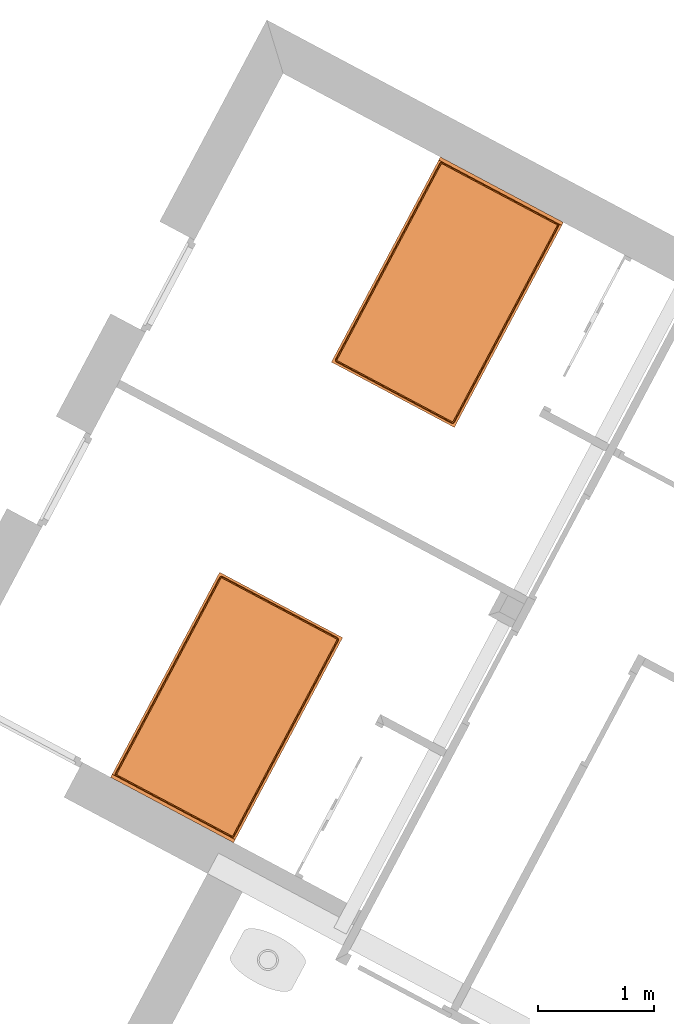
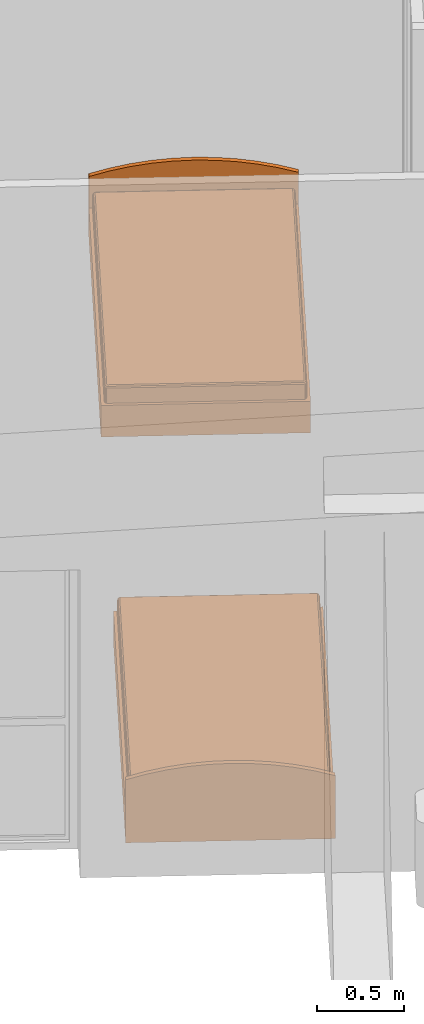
# One storey, part 27 of 27: 2 proxies.
"""IFC2X3 building model written with IfcOpenShell, lengths in metres."""

from ifc_helpers import new_model, entity, si_unit, converted_unit, derived_unit, money_unit, direction, frame, origin_with_axes, place, context, subcontext, project, spatial, faceted_brep, type_object, element, save


model = new_model("IFC2X3")

# Units and contexts
model_context = context("Model", 3, precision=1e-05, world=origin_with_axes(), true_north=direction((0.0, 1.0)))
body_context = subcontext(model_context, "Body", "Model", "MODEL_VIEW")
ifc_project = project(units=[si_unit("LENGTHUNIT", "METRE"), si_unit("AREAUNIT", "SQUARE_METRE"), si_unit("VOLUMEUNIT", "CUBIC_METRE"), converted_unit("PLANEANGLEUNIT", "DEGREE", entity("IfcPlaneAngleMeasure", 0.0174532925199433), si_unit("PLANEANGLEUNIT", "RADIAN"), dimensions=[0, 0, 0, 0, 0, 0, 0]), money_unit("CHF"), converted_unit("TIMEUNIT", "Year", entity("IfcTimeMeasure", 31557600.0), si_unit("TIMEUNIT", "SECOND"), dimensions=[0, 0, 1, 0, 0, 0, 0]), si_unit("MASSUNIT", "GRAM", prefix="KILO"), si_unit("THERMODYNAMICTEMPERATUREUNIT", "DEGREE_CELSIUS"), si_unit("LUMINOUSINTENSITYUNIT", "LUMEN"), si_unit("ENERGYUNIT", "JOULE", prefix="MEGA"), derived_unit("THERMALCONDUCTANCEUNIT", [(si_unit("POWERUNIT", "WATT"), 1), (si_unit("LENGTHUNIT", "METRE"), -1), (si_unit("THERMODYNAMICTEMPERATUREUNIT", "KELVIN"), -1)]), derived_unit("SPECIFICHEATCAPACITYUNIT", [(si_unit("ENERGYUNIT", "JOULE"), 1), (si_unit("MASSUNIT", "GRAM", prefix="KILO"), -1), (si_unit("THERMODYNAMICTEMPERATUREUNIT", "KELVIN"), -1)]), derived_unit("MASSDENSITYUNIT", [(si_unit("MASSUNIT", "GRAM", prefix="KILO"), 1), (si_unit("VOLUMEUNIT", "CUBIC_METRE"), -1)])], contexts=[model_context])

# Site, building, storey
site_placement = place(None, frame((0.0, 0.0, 0.0), z_axis=(0.0, 0.0, 1.0), x_axis=(-0.4694715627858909, -0.8829475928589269, 0.0)))
site = spatial("IfcSite", under=ifc_project, at=site_placement, Name="Site", CompositionType="ELEMENT")
building_placement = place(site_placement, origin_with_axes())
building = spatial("IfcBuilding", under=site, at=building_placement, Name="Bâtiment", CompositionType="ELEMENT")
storey_placement = place(building_placement, origin_with_axes())
storey = spatial("IfcBuildingStorey", under=building, at=storey_placement, Name="RDC", CompositionType="ELEMENT", Elevation=0.0)

# Proxies
building_element_proxy_type = type_object("IfcBuildingElementProxyType", Name="Lit une personne 01 12", PredefinedType="NOTDEFINED")
proxy_1_placement = place(storey_placement, frame((131.5495710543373, -837.1209508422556, 0.0), z_axis=(0.0, 0.0, 1.0), x_axis=(0.0, -1.0, 0.0)))
element("IfcBuildingElementProxy", 1, at=proxy_1_placement, inside=storey, type_object=building_element_proxy_type, Name="Obj.-633", context=body_context, shape_type="Brep", body=[
    faceted_brep([(0.0, 2.0, 0.0), (1.2, 2.0, 0.0), (1.2, 1.97, 0.0), (0.0, 1.97, 0.0), (0.0, 2.0, 0.4400000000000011), (0.116828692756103, 2.0, 0.4757898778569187), (0.2357651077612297, 2.0, 0.5037896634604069), (0.3562904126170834, 2.0, 0.5238772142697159), (0.4778788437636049, 2.0, 0.5359649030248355), (0.6000000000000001, 2.0, 0.5400000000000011), (0.7221211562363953, 2.0, 0.535964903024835), (0.8437095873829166, 2.0, 0.523877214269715), (0.9642348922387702, 2.0, 0.503789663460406), (1.083171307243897, 2.0, 0.4757898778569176), (1.2, 2.0, 0.4400000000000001), (1.2, 2.0, 0.4399000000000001), (1.2, 1.97, 0.4399000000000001), (1.2, 1.97, 0.4400000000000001), (1.083171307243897, 1.97, 0.4757898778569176), (0.9642348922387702, 1.97, 0.503789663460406), (0.8437095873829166, 1.97, 0.523877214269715), (0.7221211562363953, 1.97, 0.535964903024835), (0.6000000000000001, 1.97, 0.5400000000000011), (0.4778788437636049, 1.97, 0.5359649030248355), (0.3562904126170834, 1.97, 0.5238772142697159), (0.2357651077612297, 1.97, 0.5037896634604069), (0.116828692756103, 1.97, 0.4757898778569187), (0.0, 1.97, 0.4400000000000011)], [[[0, 1, 2, 3]], [[0, 4, 5, 6, 7, 8, 9, 10, 11, 12, 13, 14, 15, 1]], [[1, 15, 16, 2]], [[3, 2, 16, 17, 18, 19, 20, 21, 22, 23, 24, 25, 26, 27]], [[4, 0, 3, 27]], [[5, 4, 27, 26]], [[6, 5, 26, 25]], [[7, 6, 25, 24]], [[8, 7, 24, 23]], [[9, 8, 23, 22]], [[10, 9, 22, 21]], [[11, 10, 21, 20]], [[12, 11, 20, 19]], [[13, 12, 19, 18]], [[14, 13, 18, 17]], [[15, 14, 17, 16]]]),
    faceted_brep([(1.2, 0.0, 0.0), (0.0, 0.0, 0.0), (0.0, 1.97, 0.0), (1.2, 1.97, 0.0), (1.2, 0.0, 0.22), (0.0, 0.0, 0.22), (0.0, 1.97, 0.22), (1.2, 1.97, 0.22)], [[[0, 1, 2, 3]], [[1, 0, 4, 5]], [[2, 1, 5, 6]], [[3, 2, 6, 7]], [[0, 3, 7, 4]], [[5, 4, 7, 6]]]),
    faceted_brep([(0.02, 0.04195, 0.31), (0.02, 1.95, 0.31), (0.02152240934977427, 1.957653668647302, 0.31), (0.02585786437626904, 1.964142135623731, 0.31), (0.03234633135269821, 1.968477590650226, 0.31), (0.04, 1.97, 0.31), (0.04116, 1.97, 0.31), (1.16, 1.97, 0.31), (1.167653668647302, 1.968477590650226, 0.31), (1.174142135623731, 1.964142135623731, 0.31), (1.178477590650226, 1.957653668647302, 0.31), (1.18, 1.95, 0.31), (1.18, 1.94805, 0.31), (1.18, 0.04, 0.31), (1.178477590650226, 0.03234633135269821, 0.31), (1.174142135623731, 0.02585786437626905, 0.31), (1.167653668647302, 0.02152240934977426, 0.31), (1.16, 0.02, 0.31), (1.15884, 0.02, 0.31), (0.04000000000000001, 0.02, 0.31), (0.03234633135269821, 0.02152240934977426, 0.31), (0.02585786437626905, 0.02585786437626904, 0.31), (0.02152240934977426, 0.03234633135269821, 0.31), (0.02, 0.04, 0.31), (0.01999999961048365, 0.04194999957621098, 0.32), (0.01999999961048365, 1.950000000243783, 0.32), (0.0215224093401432, 1.957653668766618, 0.32), (0.02585786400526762, 1.964142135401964, 0.32), (0.03234633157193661, 1.968477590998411, 0.32), (0.04000000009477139, 1.969999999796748, 0.32), (0.04115999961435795, 1.969999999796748, 0.32), (1.16000000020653, 1.969999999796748, 0.32), (1.167653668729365, 1.968477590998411, 0.32), (1.174142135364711, 1.964142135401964, 0.32), (1.178477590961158, 1.957653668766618, 0.32), (1.179999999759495, 1.950000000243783, 0.32), (1.179999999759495, 1.948049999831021, 0.32), (1.179999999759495, 0.04000000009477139, 0.32), (1.178477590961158, 0.03234633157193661, 0.32), (1.174142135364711, 0.02585786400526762, 0.32), (1.167653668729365, 0.0215224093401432, 0.32), (1.16000000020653, 0.01999999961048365, 0.32), (1.158839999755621, 0.01999999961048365, 0.32), (0.04000000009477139, 0.01999999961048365, 0.32), (0.03234633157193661, 0.0215224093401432, 0.32), (0.02585786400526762, 0.02585786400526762, 0.32), (0.0215224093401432, 0.03234633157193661, 0.32), (0.01999999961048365, 0.04000000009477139, 0.32), (0.02068148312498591, 0.04194999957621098, 0.3251763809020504), (0.02068148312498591, 1.9499328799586, 0.3251763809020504), (0.02216435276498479, 1.957387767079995, 0.3251763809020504), (0.02634918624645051, 1.963650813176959, 0.3251763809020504), (0.03261223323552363, 1.96783564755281, 0.3251763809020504), (0.04006712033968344, 1.969318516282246, 0.3251763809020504), (0.04115999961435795, 1.969318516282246, 0.3251763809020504), (1.159932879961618, 1.969318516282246, 0.3251763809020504), (1.167387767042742, 1.967835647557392, 0.3251763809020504), (1.173650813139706, 1.963650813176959, 0.3251763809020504), (1.177835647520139, 1.957387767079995, 0.3251763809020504), (1.179318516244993, 1.949932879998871, 0.3251763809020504), (1.179318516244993, 1.948049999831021, 0.3251763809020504), (1.179318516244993, 0.04006712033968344, 0.3251763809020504), (1.177835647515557, 0.03261223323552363, 0.3251763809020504), (1.173650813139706, 0.02634918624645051, 0.3251763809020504), (1.167387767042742, 0.02216435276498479, 0.3251763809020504), (1.159932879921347, 0.02068148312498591, 0.3251763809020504), (1.158839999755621, 0.02068148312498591, 0.3251763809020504), (0.0400671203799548, 0.02068148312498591, 0.3251763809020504), (0.03261223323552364, 0.0221643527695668, 0.3251763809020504), (0.02634918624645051, 0.02634918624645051, 0.3251763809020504), (0.0221643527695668, 0.03261223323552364, 0.3251763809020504), (0.02068148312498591, 0.0400671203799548, 0.3251763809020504), (0.02585786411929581, 0.04194999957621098, 0.334142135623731), (0.02585786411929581, 1.949423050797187, 0.334142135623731), (0.0270403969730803, 1.955368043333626, 0.334142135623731), (0.03008114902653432, 1.959918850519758, 0.334142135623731), (0.03463195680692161, 1.962959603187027, 0.334142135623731), (0.0405769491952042, 1.964142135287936, 0.334142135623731), (0.04115999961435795, 1.964142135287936, 0.334142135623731), (1.159423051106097, 1.964142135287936, 0.334142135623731), (1.165368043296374, 1.962959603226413, 0.334142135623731), (1.169918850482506, 1.959918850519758, 0.334142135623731), (1.17295960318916, 1.955368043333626, 0.334142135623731), (1.174142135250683, 1.94942305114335, 0.334142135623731), (1.174142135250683, 1.948049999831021, 0.334142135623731), (1.174142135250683, 0.0405769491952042, 0.334142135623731), (1.172959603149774, 0.03463195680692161, 0.334142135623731), (1.169918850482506, 0.03008114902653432, 0.334142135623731), (1.165368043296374, 0.0270403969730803, 0.334142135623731), (1.159423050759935, 0.02585786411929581, 0.334142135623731), (1.158839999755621, 0.02585786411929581, 0.334142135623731), (0.04057694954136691, 0.02585786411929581, 0.334142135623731), (0.03463195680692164, 0.02704039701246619, 0.334142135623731), (0.03008114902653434, 0.03008114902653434, 0.334142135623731), (0.02704039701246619, 0.03463195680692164, 0.334142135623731), (0.02585786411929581, 0.04057694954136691, 0.334142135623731), (0.03482361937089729, 0.04194999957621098, 0.3393185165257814), (0.03482361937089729, 1.948540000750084, 0.3393185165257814), (0.03548595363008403, 1.951869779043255, 0.3393185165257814), (0.03654509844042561, 1.953454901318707, 0.3393185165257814), (0.03813022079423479, 1.954514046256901, 0.3393185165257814), (0.04145999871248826, 1.955176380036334, 0.3393185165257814), (0.04115999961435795, 1.958222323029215, 0.3375599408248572), (1.158540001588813, 1.955176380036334, 0.3393185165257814), (1.161869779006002, 1.954514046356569, 0.3393185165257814), (1.163454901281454, 1.953454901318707, 0.3393185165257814), (1.164514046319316, 1.951869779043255, 0.3393185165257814), (1.165176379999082, 1.948540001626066, 0.3393185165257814), (1.165176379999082, 1.948049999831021, 0.3393185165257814), (1.165176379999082, 0.04145999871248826, 0.3393185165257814), (1.164514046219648, 0.03813022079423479, 0.3393185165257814), (1.163454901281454, 0.03654509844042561, 0.3393185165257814), (1.161869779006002, 0.03548595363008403, 0.3393185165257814), (1.158540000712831, 0.03482361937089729, 0.3393185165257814), (1.158839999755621, 0.03177767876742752, 0.3375599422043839), (0.04145999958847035, 0.03482361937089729, 0.3393185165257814), (0.03813022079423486, 0.03548595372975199, 0.3393185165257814), (0.03654509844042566, 0.03654509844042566, 0.3393185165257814), (0.03548595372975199, 0.03813022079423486, 0.3393185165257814), (0.03482361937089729, 0.04145999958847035, 0.3393185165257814), (0.03979867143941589, 0.04194999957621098, 0.3399734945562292), (0.03999999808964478, 0.04196982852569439, 0.3399999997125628), (0.03999999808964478, 1.94803017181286, 0.3399999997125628), (0.04032681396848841, 1.949673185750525, 0.3399999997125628), (0.03999999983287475, 1.950000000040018, 0.339949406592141), (0.04196982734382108, 1.950000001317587, 0.3399999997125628), (1.15803017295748, 1.950000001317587, 0.3399999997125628), (1.159673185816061, 1.949673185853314, 0.3399999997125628), (1.159999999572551, 1.949999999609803, 0.3399494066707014), (1.160000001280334, 1.948030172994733, 0.3399999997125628), (1.160201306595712, 1.948049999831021, 0.3399734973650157), (1.160000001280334, 0.04196982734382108, 0.3399999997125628), (1.159673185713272, 0.04032681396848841, 0.3399999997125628), (1.15999999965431, 0.04000000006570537, 0.3399494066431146), (1.158030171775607, 0.03999999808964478, 0.3399999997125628), (0.04196982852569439, 0.03999999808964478, 0.3399999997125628), (0.04032681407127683, 0.04032681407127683, 0.3399999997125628), (0.03999999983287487, 0.03999999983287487, 0.339949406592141)], [[[0, 1, 2, 3, 4, 5, 6, 7, 8, 9, 10, 11, 12, 13, 14, 15, 16, 17, 18, 19, 20, 21, 22, 23]], [[1, 0, 24, 25]], [[2, 1, 25, 26]], [[3, 2, 26, 27]], [[4, 3, 27, 28]], [[5, 4, 28, 29]], [[6, 5, 29, 30]], [[7, 6, 30, 31]], [[8, 7, 31, 32]], [[9, 8, 32, 33]], [[10, 9, 33, 34]], [[11, 10, 34, 35]], [[12, 11, 35, 36]], [[13, 12, 36, 37]], [[14, 13, 37, 38]], [[15, 14, 38, 39]], [[16, 15, 39, 40]], [[17, 16, 40, 41]], [[18, 17, 41, 42]], [[19, 18, 42, 43]], [[20, 19, 43, 44]], [[21, 20, 44, 45]], [[22, 21, 45, 46]], [[23, 22, 46, 47]], [[0, 23, 47, 24]], [[25, 24, 48, 49]], [[26, 25, 49, 50]], [[27, 26, 50, 51]], [[28, 27, 51, 52]], [[29, 28, 52, 53]], [[30, 29, 53, 54]], [[31, 30, 54, 55]], [[32, 31, 55, 56]], [[33, 32, 56, 57]], [[34, 33, 57, 58]], [[35, 34, 58, 59]], [[36, 35, 59, 60]], [[37, 36, 60, 61]], [[38, 37, 61, 62]], [[39, 38, 62, 63]], [[40, 39, 63, 64]], [[41, 40, 64, 65]], [[42, 41, 65, 66]], [[43, 42, 66, 67]], [[44, 43, 67, 68]], [[45, 44, 68, 69]], [[46, 45, 69, 70]], [[47, 46, 70, 71]], [[24, 47, 71, 48]], [[49, 48, 72, 73]], [[50, 49, 73, 74]], [[51, 50, 74, 75]], [[52, 51, 75, 76]], [[53, 52, 76, 77]], [[54, 53, 77, 78]], [[55, 54, 78, 79]], [[56, 55, 79, 80]], [[57, 56, 80, 81]], [[58, 57, 81, 82]], [[59, 58, 82, 83]], [[60, 59, 83, 84]], [[61, 60, 84, 85]], [[62, 61, 85, 86]], [[63, 62, 86, 87]], [[64, 63, 87, 88]], [[65, 64, 88, 89]], [[66, 65, 89, 90]], [[67, 66, 90, 91]], [[68, 67, 91, 92]], [[69, 68, 92, 93]], [[70, 69, 93, 94]], [[71, 70, 94, 95]], [[48, 71, 95, 72]], [[73, 72, 96, 97]], [[74, 73, 97, 98]], [[75, 74, 98, 99]], [[76, 75, 99, 100]], [[77, 76, 100, 101, 102]], [[78, 77, 102]], [[79, 78, 102, 101, 103]], [[80, 79, 103, 104]], [[81, 80, 104, 105]], [[82, 81, 105, 106]], [[83, 82, 106, 107]], [[84, 83, 107, 108]], [[85, 84, 108, 109]], [[86, 85, 109, 110]], [[87, 86, 110, 111]], [[88, 87, 111, 112]], [[89, 88, 112, 113, 114]], [[90, 89, 114]], [[91, 90, 114, 113, 115]], [[92, 91, 115, 116]], [[93, 92, 116, 117]], [[94, 93, 117, 118]], [[95, 94, 118, 119]], [[72, 95, 119, 96]], [[97, 96, 120, 121, 122]], [[98, 97, 122, 123, 124]], [[99, 98, 124]], [[100, 99, 124]], [[101, 100, 124, 123, 125]], [[103, 101, 125, 126]], [[104, 103, 126, 127, 128]], [[105, 104, 128]], [[106, 105, 128]], [[107, 106, 128, 127, 129, 130]], [[108, 107, 130]], [[109, 108, 130, 129, 131]], [[110, 109, 131, 132, 133]], [[111, 110, 133]], [[112, 111, 133]], [[113, 112, 133, 132, 134]], [[115, 113, 134, 135]], [[116, 115, 135, 136, 137]], [[117, 116, 137]], [[118, 117, 137]], [[119, 118, 137, 136, 121, 120]], [[96, 119, 120]], [[122, 121, 136, 135, 134, 132, 131, 129, 127, 126, 125, 123]]]),
    faceted_brep([(0.02, 0.04, 0.22), (0.02, 0.04, 0.31), (0.02, 0.04195, 0.31), (0.02, 0.04195, 0.22), (0.02152240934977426, 0.03234633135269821, 0.22), (0.02152240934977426, 0.03234633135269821, 0.31), (0.02585786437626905, 0.02585786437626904, 0.31), (0.03234633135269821, 0.02152240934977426, 0.31), (0.04000000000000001, 0.02, 0.31), (1.15884, 0.02, 0.31), (1.16, 0.02, 0.31), (1.167653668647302, 0.02152240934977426, 0.31), (1.174142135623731, 0.02585786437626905, 0.31), (1.178477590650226, 0.03234633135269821, 0.31), (1.18, 0.04, 0.31), (1.18, 1.94805, 0.31), (1.18, 1.95, 0.31), (1.178477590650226, 1.957653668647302, 0.31), (1.174142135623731, 1.964142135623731, 0.31), (1.167653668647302, 1.968477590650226, 0.31), (1.16, 1.97, 0.31), (0.04116, 1.97, 0.31), (0.04, 1.97, 0.31), (0.03234633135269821, 1.968477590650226, 0.31), (0.02585786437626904, 1.964142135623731, 0.31), (0.02152240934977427, 1.957653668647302, 0.31), (0.02, 1.95, 0.31), (0.02, 1.95, 0.2199999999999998), (0.02152240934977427, 1.957653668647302, 0.2199999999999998), (0.02585786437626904, 1.964142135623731, 0.2199999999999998), (0.03234633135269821, 1.968477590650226, 0.2199999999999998), (0.04, 1.97, 0.2199999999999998), (0.04116, 1.97, 0.2199999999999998), (1.16, 1.97, 0.2199999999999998), (1.167653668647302, 1.968477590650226, 0.2199999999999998), (1.174142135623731, 1.964142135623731, 0.2199999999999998), (1.178477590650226, 1.957653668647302, 0.2199999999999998), (1.18, 1.95, 0.2199999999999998), (1.18, 1.94805, 0.2199999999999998), (1.18, 0.04, 0.22), (1.178477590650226, 0.03234633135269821, 0.22), (1.174142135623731, 0.02585786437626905, 0.22), (1.167653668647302, 0.02152240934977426, 0.22), (1.16, 0.02, 0.22), (1.15884, 0.02, 0.22), (0.04000000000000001, 0.02, 0.22), (0.03234633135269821, 0.02152240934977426, 0.22), (0.02585786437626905, 0.02585786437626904, 0.22)], [[[0, 1, 2, 3]], [[4, 5, 1, 0]], [[2, 1, 5, 6, 7, 8, 9, 10, 11, 12, 13, 14, 15, 16, 17, 18, 19, 20, 21, 22, 23, 24, 25, 26]], [[3, 2, 26, 27]], [[3, 27, 28, 29, 30, 31, 32, 33, 34, 35, 36, 37, 38, 39, 40, 41, 42, 43, 44, 45, 46, 47, 4, 0]], [[47, 6, 5, 4]], [[46, 7, 6, 47]], [[45, 8, 7, 46]], [[44, 9, 8, 45]], [[43, 10, 9, 44]], [[42, 11, 10, 43]], [[41, 12, 11, 42]], [[40, 13, 12, 41]], [[39, 14, 13, 40]], [[38, 15, 14, 39]], [[37, 16, 15, 38]], [[36, 17, 16, 37]], [[35, 18, 17, 36]], [[34, 19, 18, 35]], [[33, 20, 19, 34]], [[32, 21, 20, 33]], [[31, 22, 21, 32]], [[30, 23, 22, 31]], [[29, 24, 23, 30]], [[28, 25, 24, 29]], [[27, 26, 25, 28]]]),
])
proxy_2_placement = place(storey_placement, frame((129.4995710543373, -837.1209508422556, 0.0), z_axis=(0.0, 0.0, 1.0), x_axis=(0.0, 1.0, 0.0)))
element("IfcBuildingElementProxy", 2, at=proxy_2_placement, inside=storey, type_object=building_element_proxy_type, Name="Obj.-633", context=body_context, shape_type="Brep", body=[
    faceted_brep([(0.0, 2.0, 0.0), (0.0, 1.97, 0.0), (-1.2, 1.97, 0.0), (-1.2, 2.0, 0.0), (0.0, 2.0, 0.4400000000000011), (0.0, 1.97, 0.4400000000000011), (-0.116828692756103, 1.97, 0.4757898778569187), (-0.2357651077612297, 1.97, 0.5037896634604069), (-0.3562904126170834, 1.97, 0.5238772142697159), (-0.4778788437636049, 1.97, 0.5359649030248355), (-0.6000000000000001, 1.97, 0.5400000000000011), (-0.7221211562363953, 1.97, 0.535964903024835), (-0.8437095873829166, 1.97, 0.523877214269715), (-0.9642348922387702, 1.97, 0.503789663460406), (-1.083171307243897, 1.97, 0.4757898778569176), (-1.2, 1.97, 0.4400000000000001), (-1.2, 1.97, 0.4399000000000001), (-1.2, 2.0, 0.4399000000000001), (-1.2, 2.0, 0.4400000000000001), (-1.083171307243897, 2.0, 0.4757898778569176), (-0.9642348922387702, 2.0, 0.503789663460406), (-0.8437095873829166, 2.0, 0.523877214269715), (-0.7221211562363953, 2.0, 0.535964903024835), (-0.6000000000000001, 2.0, 0.5400000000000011), (-0.4778788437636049, 2.0, 0.5359649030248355), (-0.3562904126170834, 2.0, 0.5238772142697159), (-0.2357651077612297, 2.0, 0.5037896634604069), (-0.116828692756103, 2.0, 0.4757898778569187)], [[[0, 1, 2, 3]], [[4, 5, 1, 0]], [[1, 5, 6, 7, 8, 9, 10, 11, 12, 13, 14, 15, 16, 2]], [[3, 2, 16, 17]], [[0, 3, 17, 18, 19, 20, 21, 22, 23, 24, 25, 26, 27, 4]], [[27, 6, 5, 4]], [[26, 7, 6, 27]], [[25, 8, 7, 26]], [[24, 9, 8, 25]], [[23, 10, 9, 24]], [[22, 11, 10, 23]], [[21, 12, 11, 22]], [[20, 13, 12, 21]], [[19, 14, 13, 20]], [[18, 15, 14, 19]], [[17, 16, 15, 18]]]),
    faceted_brep([(-1.2, 0.0, 0.0), (-1.2, 1.97, 0.0), (0.0, 1.97, 0.0), (0.0, 0.0, 0.0), (-1.2, 0.0, 0.22), (-1.2, 1.97, 0.22), (0.0, 1.97, 0.22), (0.0, 0.0, 0.22)], [[[0, 1, 2, 3]], [[0, 4, 5, 1]], [[1, 5, 6, 2]], [[2, 6, 7, 3]], [[3, 7, 4, 0]], [[7, 6, 5, 4]]]),
    faceted_brep([(-0.02, 0.04195, 0.31), (-0.02, 0.04, 0.31), (-0.02152240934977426, 0.03234633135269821, 0.31), (-0.02585786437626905, 0.02585786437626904, 0.31), (-0.03234633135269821, 0.02152240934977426, 0.31), (-0.04000000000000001, 0.02, 0.31), (-1.15884, 0.02, 0.31), (-1.16, 0.02, 0.31), (-1.167653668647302, 0.02152240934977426, 0.31), (-1.174142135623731, 0.02585786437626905, 0.31), (-1.178477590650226, 0.03234633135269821, 0.31), (-1.18, 0.04, 0.31), (-1.18, 1.94805, 0.31), (-1.18, 1.95, 0.31), (-1.178477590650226, 1.957653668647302, 0.31), (-1.174142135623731, 1.964142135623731, 0.31), (-1.167653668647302, 1.968477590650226, 0.31), (-1.16, 1.97, 0.31), (-0.04116, 1.97, 0.31), (-0.04, 1.97, 0.31), (-0.03234633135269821, 1.968477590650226, 0.31), (-0.02585786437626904, 1.964142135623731, 0.31), (-0.02152240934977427, 1.957653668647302, 0.31), (-0.02, 1.95, 0.31), (-0.01999999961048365, 0.04194999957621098, 0.32), (-0.01999999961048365, 0.04000000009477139, 0.32), (-0.0215224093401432, 0.03234633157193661, 0.32), (-0.02585786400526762, 0.02585786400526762, 0.32), (-0.03234633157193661, 0.0215224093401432, 0.32), (-0.04000000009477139, 0.01999999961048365, 0.32), (-1.158839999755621, 0.01999999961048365, 0.32), (-1.16000000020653, 0.01999999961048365, 0.32), (-1.167653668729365, 0.0215224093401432, 0.32), (-1.174142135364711, 0.02585786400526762, 0.32), (-1.178477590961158, 0.03234633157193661, 0.32), (-1.179999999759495, 0.04000000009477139, 0.32), (-1.179999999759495, 1.948049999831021, 0.32), (-1.179999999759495, 1.950000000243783, 0.32), (-1.178477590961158, 1.957653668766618, 0.32), (-1.174142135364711, 1.964142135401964, 0.32), (-1.167653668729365, 1.968477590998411, 0.32), (-1.16000000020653, 1.969999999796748, 0.32), (-0.04115999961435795, 1.969999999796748, 0.32), (-0.04000000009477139, 1.969999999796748, 0.32), (-0.03234633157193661, 1.968477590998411, 0.32), (-0.02585786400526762, 1.964142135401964, 0.32), (-0.0215224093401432, 1.957653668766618, 0.32), (-0.01999999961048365, 1.950000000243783, 0.32), (-0.02068148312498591, 0.04194999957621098, 0.3251763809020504), (-0.02068148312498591, 0.0400671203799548, 0.3251763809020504), (-0.0221643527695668, 0.03261223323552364, 0.3251763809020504), (-0.02634918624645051, 0.02634918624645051, 0.3251763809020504), (-0.03261223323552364, 0.0221643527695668, 0.3251763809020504), (-0.0400671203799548, 0.02068148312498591, 0.3251763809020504), (-1.158839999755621, 0.02068148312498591, 0.3251763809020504), (-1.159932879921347, 0.02068148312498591, 0.3251763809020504), (-1.167387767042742, 0.02216435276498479, 0.3251763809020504), (-1.173650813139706, 0.02634918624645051, 0.3251763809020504), (-1.177835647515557, 0.03261223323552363, 0.3251763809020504), (-1.179318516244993, 0.04006712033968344, 0.3251763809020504), (-1.179318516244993, 1.948049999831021, 0.3251763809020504), (-1.179318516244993, 1.949932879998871, 0.3251763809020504), (-1.177835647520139, 1.957387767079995, 0.3251763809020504), (-1.173650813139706, 1.963650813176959, 0.3251763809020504), (-1.167387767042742, 1.967835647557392, 0.3251763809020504), (-1.159932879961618, 1.969318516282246, 0.3251763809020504), (-0.04115999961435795, 1.969318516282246, 0.3251763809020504), (-0.04006712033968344, 1.969318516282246, 0.3251763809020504), (-0.03261223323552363, 1.96783564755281, 0.3251763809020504), (-0.02634918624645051, 1.963650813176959, 0.3251763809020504), (-0.02216435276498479, 1.957387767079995, 0.3251763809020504), (-0.02068148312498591, 1.9499328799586, 0.3251763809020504), (-0.02585786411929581, 0.04194999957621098, 0.334142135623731), (-0.02585786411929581, 0.04057694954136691, 0.334142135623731), (-0.02704039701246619, 0.03463195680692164, 0.334142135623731), (-0.03008114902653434, 0.03008114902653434, 0.334142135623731), (-0.03463195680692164, 0.02704039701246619, 0.334142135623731), (-0.04057694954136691, 0.02585786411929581, 0.334142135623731), (-1.158839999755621, 0.02585786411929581, 0.334142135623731), (-1.159423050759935, 0.02585786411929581, 0.334142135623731), (-1.165368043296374, 0.0270403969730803, 0.334142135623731), (-1.169918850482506, 0.03008114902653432, 0.334142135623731), (-1.172959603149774, 0.03463195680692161, 0.334142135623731), (-1.174142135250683, 0.0405769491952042, 0.334142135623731), (-1.174142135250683, 1.948049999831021, 0.334142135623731), (-1.174142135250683, 1.94942305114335, 0.334142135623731), (-1.17295960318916, 1.955368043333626, 0.334142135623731), (-1.169918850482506, 1.959918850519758, 0.334142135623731), (-1.165368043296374, 1.962959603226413, 0.334142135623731), (-1.159423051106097, 1.964142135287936, 0.334142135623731), (-0.04115999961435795, 1.964142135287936, 0.334142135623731), (-0.0405769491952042, 1.964142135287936, 0.334142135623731), (-0.03463195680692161, 1.962959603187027, 0.334142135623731), (-0.03008114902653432, 1.959918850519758, 0.334142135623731), (-0.0270403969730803, 1.955368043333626, 0.334142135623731), (-0.02585786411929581, 1.949423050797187, 0.334142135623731), (-0.03482361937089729, 0.04194999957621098, 0.3393185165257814), (-0.03482361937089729, 0.04145999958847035, 0.3393185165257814), (-0.03548595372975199, 0.03813022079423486, 0.3393185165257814), (-0.03654509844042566, 0.03654509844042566, 0.3393185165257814), (-0.03813022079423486, 0.03548595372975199, 0.3393185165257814), (-0.04145999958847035, 0.03482361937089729, 0.3393185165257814), (-1.158540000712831, 0.03482361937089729, 0.3393185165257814), (-1.158839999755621, 0.03177767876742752, 0.3375599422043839), (-1.161869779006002, 0.03548595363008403, 0.3393185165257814), (-1.163454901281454, 0.03654509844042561, 0.3393185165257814), (-1.164514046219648, 0.03813022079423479, 0.3393185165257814), (-1.165176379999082, 0.04145999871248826, 0.3393185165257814), (-1.165176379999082, 1.948049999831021, 0.3393185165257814), (-1.165176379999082, 1.948540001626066, 0.3393185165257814), (-1.164514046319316, 1.951869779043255, 0.3393185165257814), (-1.163454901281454, 1.953454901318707, 0.3393185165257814), (-1.161869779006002, 1.954514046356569, 0.3393185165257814), (-1.158540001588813, 1.955176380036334, 0.3393185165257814), (-0.04145999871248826, 1.955176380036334, 0.3393185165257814), (-0.04115999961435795, 1.958222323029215, 0.3375599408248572), (-0.03813022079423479, 1.954514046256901, 0.3393185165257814), (-0.03654509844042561, 1.953454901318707, 0.3393185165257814), (-0.03548595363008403, 1.951869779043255, 0.3393185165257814), (-0.03482361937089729, 1.948540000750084, 0.3393185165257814), (-0.03979867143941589, 0.04194999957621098, 0.3399734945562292), (-0.03999999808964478, 0.04196982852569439, 0.3399999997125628), (-0.04032681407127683, 0.04032681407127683, 0.3399999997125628), (-0.03999999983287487, 0.03999999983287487, 0.339949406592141), (-0.04196982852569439, 0.03999999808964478, 0.3399999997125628), (-1.158030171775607, 0.03999999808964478, 0.3399999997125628), (-1.159673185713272, 0.04032681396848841, 0.3399999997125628), (-1.15999999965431, 0.04000000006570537, 0.3399494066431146), (-1.160000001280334, 0.04196982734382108, 0.3399999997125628), (-1.160000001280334, 1.948030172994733, 0.3399999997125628), (-1.160201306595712, 1.948049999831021, 0.3399734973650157), (-1.159673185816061, 1.949673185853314, 0.3399999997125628), (-1.159999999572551, 1.949999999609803, 0.3399494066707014), (-1.15803017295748, 1.950000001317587, 0.3399999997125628), (-0.04196982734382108, 1.950000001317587, 0.3399999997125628), (-0.04032681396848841, 1.949673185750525, 0.3399999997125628), (-0.03999999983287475, 1.950000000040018, 0.339949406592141), (-0.03999999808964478, 1.94803017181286, 0.3399999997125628)], [[[0, 1, 2, 3, 4, 5, 6, 7, 8, 9, 10, 11, 12, 13, 14, 15, 16, 17, 18, 19, 20, 21, 22, 23]], [[0, 24, 25, 1]], [[1, 25, 26, 2]], [[2, 26, 27, 3]], [[3, 27, 28, 4]], [[4, 28, 29, 5]], [[5, 29, 30, 6]], [[6, 30, 31, 7]], [[7, 31, 32, 8]], [[8, 32, 33, 9]], [[9, 33, 34, 10]], [[10, 34, 35, 11]], [[11, 35, 36, 12]], [[12, 36, 37, 13]], [[13, 37, 38, 14]], [[14, 38, 39, 15]], [[15, 39, 40, 16]], [[16, 40, 41, 17]], [[17, 41, 42, 18]], [[18, 42, 43, 19]], [[19, 43, 44, 20]], [[20, 44, 45, 21]], [[21, 45, 46, 22]], [[22, 46, 47, 23]], [[23, 47, 24, 0]], [[24, 48, 49, 25]], [[25, 49, 50, 26]], [[26, 50, 51, 27]], [[27, 51, 52, 28]], [[28, 52, 53, 29]], [[29, 53, 54, 30]], [[30, 54, 55, 31]], [[31, 55, 56, 32]], [[32, 56, 57, 33]], [[33, 57, 58, 34]], [[34, 58, 59, 35]], [[35, 59, 60, 36]], [[36, 60, 61, 37]], [[37, 61, 62, 38]], [[38, 62, 63, 39]], [[39, 63, 64, 40]], [[40, 64, 65, 41]], [[41, 65, 66, 42]], [[42, 66, 67, 43]], [[43, 67, 68, 44]], [[44, 68, 69, 45]], [[45, 69, 70, 46]], [[46, 70, 71, 47]], [[47, 71, 48, 24]], [[48, 72, 73, 49]], [[49, 73, 74, 50]], [[50, 74, 75, 51]], [[51, 75, 76, 52]], [[52, 76, 77, 53]], [[53, 77, 78, 54]], [[54, 78, 79, 55]], [[55, 79, 80, 56]], [[56, 80, 81, 57]], [[57, 81, 82, 58]], [[58, 82, 83, 59]], [[59, 83, 84, 60]], [[60, 84, 85, 61]], [[61, 85, 86, 62]], [[62, 86, 87, 63]], [[63, 87, 88, 64]], [[64, 88, 89, 65]], [[65, 89, 90, 66]], [[66, 90, 91, 67]], [[67, 91, 92, 68]], [[68, 92, 93, 69]], [[69, 93, 94, 70]], [[70, 94, 95, 71]], [[71, 95, 72, 48]], [[72, 96, 97, 73]], [[73, 97, 98, 74]], [[74, 98, 99, 75]], [[75, 99, 100, 76]], [[76, 100, 101, 77]], [[77, 101, 102, 103, 78]], [[78, 103, 79]], [[79, 103, 102, 104, 80]], [[80, 104, 105, 81]], [[81, 105, 106, 82]], [[82, 106, 107, 83]], [[83, 107, 108, 84]], [[84, 108, 109, 85]], [[85, 109, 110, 86]], [[86, 110, 111, 87]], [[87, 111, 112, 88]], [[88, 112, 113, 89]], [[89, 113, 114, 115, 90]], [[90, 115, 91]], [[91, 115, 114, 116, 92]], [[92, 116, 117, 93]], [[93, 117, 118, 94]], [[94, 118, 119, 95]], [[95, 119, 96, 72]], [[96, 120, 97]], [[97, 120, 121, 122, 123, 98]], [[98, 123, 99]], [[99, 123, 100]], [[100, 123, 122, 124, 101]], [[101, 124, 125, 102]], [[102, 125, 126, 127, 104]], [[104, 127, 105]], [[105, 127, 106]], [[106, 127, 126, 128, 107]], [[107, 128, 129, 130, 108]], [[108, 130, 109]], [[109, 130, 129, 131, 132, 110]], [[110, 132, 111]], [[111, 132, 112]], [[112, 132, 131, 133, 113]], [[113, 133, 134, 114]], [[114, 134, 135, 136, 116]], [[116, 136, 117]], [[117, 136, 118]], [[118, 136, 135, 137, 119]], [[119, 137, 121, 120, 96]], [[137, 135, 134, 133, 131, 129, 128, 126, 125, 124, 122, 121]]]),
    faceted_brep([(-0.02, 0.04, 0.22), (-0.02, 0.04195, 0.22), (-0.02, 0.04195, 0.31), (-0.02, 0.04, 0.31), (-0.02152240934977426, 0.03234633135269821, 0.22), (-0.02585786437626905, 0.02585786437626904, 0.22), (-0.03234633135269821, 0.02152240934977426, 0.22), (-0.04000000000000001, 0.02, 0.22), (-1.15884, 0.02, 0.22), (-1.16, 0.02, 0.22), (-1.167653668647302, 0.02152240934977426, 0.22), (-1.174142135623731, 0.02585786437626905, 0.22), (-1.178477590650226, 0.03234633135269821, 0.22), (-1.18, 0.04, 0.22), (-1.18, 1.94805, 0.2199999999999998), (-1.18, 1.95, 0.2199999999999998), (-1.178477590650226, 1.957653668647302, 0.2199999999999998), (-1.174142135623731, 1.964142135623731, 0.2199999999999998), (-1.167653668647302, 1.968477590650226, 0.2199999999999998), (-1.16, 1.97, 0.2199999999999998), (-0.04116, 1.97, 0.2199999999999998), (-0.04, 1.97, 0.2199999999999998), (-0.03234633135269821, 1.968477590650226, 0.2199999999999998), (-0.02585786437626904, 1.964142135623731, 0.2199999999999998), (-0.02152240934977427, 1.957653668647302, 0.2199999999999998), (-0.02, 1.95, 0.2199999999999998), (-0.02, 1.95, 0.31), (-0.02152240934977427, 1.957653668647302, 0.31), (-0.02585786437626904, 1.964142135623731, 0.31), (-0.03234633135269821, 1.968477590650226, 0.31), (-0.04, 1.97, 0.31), (-0.04116, 1.97, 0.31), (-1.16, 1.97, 0.31), (-1.167653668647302, 1.968477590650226, 0.31), (-1.174142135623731, 1.964142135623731, 0.31), (-1.178477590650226, 1.957653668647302, 0.31), (-1.18, 1.95, 0.31), (-1.18, 1.94805, 0.31), (-1.18, 0.04, 0.31), (-1.178477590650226, 0.03234633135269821, 0.31), (-1.174142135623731, 0.02585786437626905, 0.31), (-1.167653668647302, 0.02152240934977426, 0.31), (-1.16, 0.02, 0.31), (-1.15884, 0.02, 0.31), (-0.04000000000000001, 0.02, 0.31), (-0.03234633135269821, 0.02152240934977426, 0.31), (-0.02585786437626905, 0.02585786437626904, 0.31), (-0.02152240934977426, 0.03234633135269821, 0.31)], [[[0, 1, 2, 3]], [[1, 0, 4, 5, 6, 7, 8, 9, 10, 11, 12, 13, 14, 15, 16, 17, 18, 19, 20, 21, 22, 23, 24, 25]], [[1, 25, 26, 2]], [[2, 26, 27, 28, 29, 30, 31, 32, 33, 34, 35, 36, 37, 38, 39, 40, 41, 42, 43, 44, 45, 46, 47, 3]], [[4, 0, 3, 47]], [[5, 4, 47, 46]], [[6, 5, 46, 45]], [[7, 6, 45, 44]], [[8, 7, 44, 43]], [[9, 8, 43, 42]], [[10, 9, 42, 41]], [[11, 10, 41, 40]], [[12, 11, 40, 39]], [[13, 12, 39, 38]], [[14, 13, 38, 37]], [[15, 14, 37, 36]], [[16, 15, 36, 35]], [[17, 16, 35, 34]], [[18, 17, 34, 33]], [[19, 18, 33, 32]], [[20, 19, 32, 31]], [[21, 20, 31, 30]], [[22, 21, 30, 29]], [[23, 22, 29, 28]], [[24, 23, 28, 27]], [[25, 24, 27, 26]]]),
])

save(model, "model.ifc")
